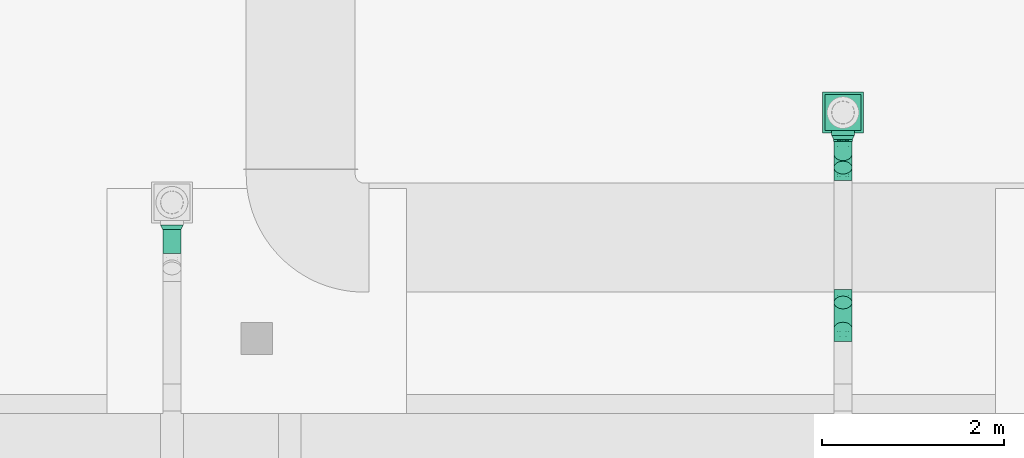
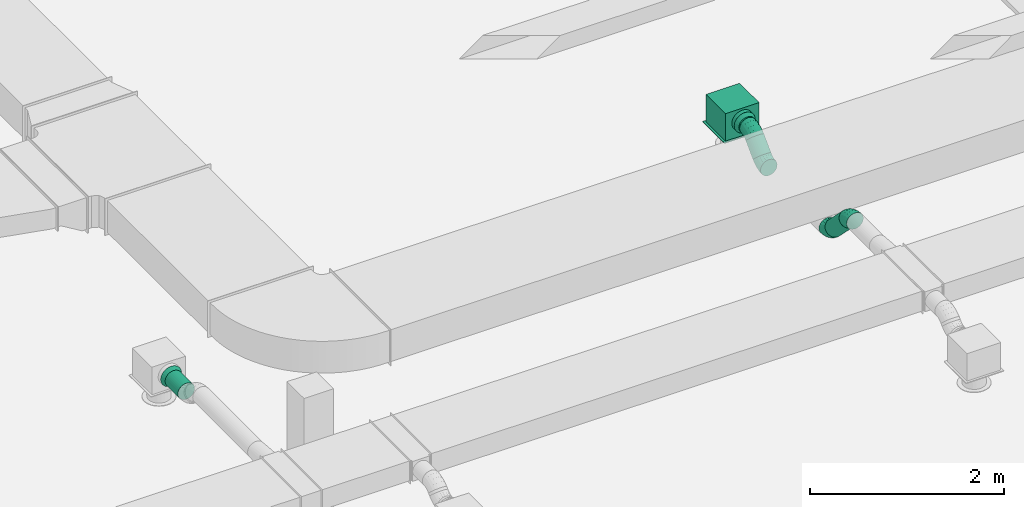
# One storey, part 265 of 302: 6 flow fittings, 4 flow segments, 1 flow terminal.
"""IFC2X3 building model written with IfcOpenShell, lengths in metres."""

from ifc_helpers import new_model, entity, si_unit, converted_unit, derived_unit, direction, frame, frame_2d, origin, origin_2d_with_axis, place, context, subcontext, project, spatial, rectangle, circle, extrude, faceted_brep, source, transform, mapped, material, material_list, type_object, type_shapes, element, save


model = new_model("IFC2X3")

# Units and contexts
model_context = context("Model", 3, precision=1e-05, world=origin(), true_north=direction((6.12303176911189e-17, 1.0)))
body_context = subcontext(model_context, "Body", "Model", "MODEL_VIEW")
ifc_project = project(units=[si_unit("LENGTHUNIT", "METRE"), si_unit("AREAUNIT", "SQUARE_METRE"), si_unit("VOLUMEUNIT", "CUBIC_METRE"), converted_unit("PLANEANGLEUNIT", "DEGREE", entity("IfcRatioMeasure", 0.0174532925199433), si_unit("PLANEANGLEUNIT", "RADIAN"), dimensions=[0, 0, 0, 0, 0, 0, 0]), si_unit("MASSUNIT", "GRAM", prefix="KILO"), derived_unit("MASSDENSITYUNIT", [(si_unit("MASSUNIT", "GRAM", prefix="KILO"), 1), (si_unit("LENGTHUNIT", "METRE"), -3)]), derived_unit("MOMENTOFINERTIAUNIT", [(si_unit("LENGTHUNIT", "METRE"), 4)]), si_unit("TIMEUNIT", "SECOND"), si_unit("FREQUENCYUNIT", "HERTZ"), si_unit("THERMODYNAMICTEMPERATUREUNIT", "DEGREE_CELSIUS"), derived_unit("THERMALTRANSMITTANCEUNIT", [(si_unit("MASSUNIT", "GRAM", prefix="KILO"), 1), (si_unit("THERMODYNAMICTEMPERATUREUNIT", "KELVIN"), -1), (si_unit("TIMEUNIT", "SECOND"), -3)]), derived_unit("VOLUMETRICFLOWRATEUNIT", [(si_unit("LENGTHUNIT", "METRE"), 3), (si_unit("TIMEUNIT", "SECOND"), -1)]), si_unit("ELECTRICCURRENTUNIT", "AMPERE"), si_unit("ELECTRICVOLTAGEUNIT", "VOLT"), si_unit("POWERUNIT", "WATT"), si_unit("FORCEUNIT", "NEWTON", prefix="KILO"), si_unit("ILLUMINANCEUNIT", "LUX"), si_unit("LUMINOUSFLUXUNIT", "LUMEN"), si_unit("LUMINOUSINTENSITYUNIT", "CANDELA"), derived_unit("USERDEFINED", [(si_unit("MASSUNIT", "GRAM", prefix="KILO"), -1), (si_unit("LENGTHUNIT", "METRE"), -2), (si_unit("TIMEUNIT", "SECOND"), 3), (si_unit("LUMINOUSFLUXUNIT", "LUMEN"), 1)]), derived_unit("LINEARVELOCITYUNIT", [(si_unit("LENGTHUNIT", "METRE"), 1), (si_unit("TIMEUNIT", "SECOND"), -1)]), si_unit("PRESSUREUNIT", "PASCAL"), derived_unit("USERDEFINED", [(si_unit("LENGTHUNIT", "METRE"), -2), (si_unit("MASSUNIT", "GRAM", prefix="KILO"), 1), (si_unit("TIMEUNIT", "SECOND"), -2)]), derived_unit("LINEARFORCEUNIT", [(si_unit("MASSUNIT", "GRAM", prefix="KILO"), 1), (si_unit("LENGTHUNIT", "METRE"), 1), (si_unit("TIMEUNIT", "SECOND"), -2), (si_unit("LENGTHUNIT", "METRE"), -1)]), derived_unit("PLANARFORCEUNIT", [(si_unit("MASSUNIT", "GRAM", prefix="KILO"), 1), (si_unit("LENGTHUNIT", "METRE"), 1), (si_unit("TIMEUNIT", "SECOND"), -2), (si_unit("LENGTHUNIT", "METRE"), -2)])], contexts=[model_context])

# Site, building, storey
site_placement = place(None, origin())
site = spatial("IfcSite", under=ifc_project, at=site_placement, Name="Default", CompositionType="ELEMENT")
building_placement = place(site_placement, origin())
building = spatial("IfcBuilding", under=site, at=building_placement, CompositionType="ELEMENT")
storey_placement = place(building_placement, frame((0.0, 0.0, -1.3)))
storey = spatial("IfcBuildingStorey", under=building, at=storey_placement, Name="00_EG", CompositionType="ELEMENT", Elevation=-1.3)

# Flow segments
duct_segment_type = type_object("IfcDuctSegmentType", Name="Rund:STR_Segment_RND_GS_EA", PredefinedType="NOTDEFINED")
flow_segment_1_placement = place(storey_placement, origin())
element("IfcFlowSegment", 1, at=flow_segment_1_placement, inside=storey, type_object=duct_segment_type, Name="Rund:STR_Segment_RND_GS_EA", ObjectType="Rund:STR_Segment_RND_GS_EA", context=body_context, shape_type="SweptSolid", body=[
    extrude(circle(Radius=0.1, at=origin_2d_with_axis()), frame((-240.478749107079, 25.6179660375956, 4.985), z_axis=(0.0, 1.0, 0.0), x_axis=(-1.0, 0.0, 0.0)), (0.0, 0.0, 1.0), 0.017157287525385),
])
flow_segment_2_placement = place(storey_placement, origin())
element("IfcFlowSegment", 2, at=flow_segment_2_placement, inside=storey, type_object=duct_segment_type, Name="Rund:STR_Segment_RND_GS_EA", ObjectType="Rund:STR_Segment_RND_GS_EA", context=body_context, shape_type="SweptSolid", body=[
    extrude(circle(Radius=0.1, at=frame_2d((3.46517481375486e-14, 7.65702690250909e-15), x_axis=(1.0, 0.0))), frame((-240.478749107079, 25.3287019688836, 4.77857864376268), z_axis=(0.0, 0.707106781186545, 0.70710678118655), x_axis=(-1.0, 0.0, 0.0)), (0.0, 0.0, 1.0), 0.209081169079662),
])
flow_segment_3_placement = place(storey_placement, origin())
element("IfcFlowSegment", 3, at=flow_segment_3_placement, inside=storey, type_object=duct_segment_type, Name="Rund:STR_Segment_RND_GS_EA", ObjectType="Rund:STR_Segment_RND_GS_EA", context=body_context, shape_type="SweptSolid", body=[
    extrude(circle(Radius=0.1, at=origin_2d_with_axis()), frame((-240.478749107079, 23.8432369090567, 4.77857864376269), z_axis=(0.0, -0.707106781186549, 0.707106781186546), x_axis=(-1.0, 0.0, 0.0)), (0.0, 0.0, 1.0), 0.407071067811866),
])
flow_segment_4_placement = place(storey_placement, origin())
element("IfcFlowSegment", 4, at=flow_segment_4_placement, inside=storey, type_object=duct_segment_type, Name="Rund:STR_Segment_RND_GS_EA", ObjectType="Rund:STR_Segment_RND_GS_EA", context=body_context, shape_type="SweptSolid", body=[
    extrude(circle(Radius=0.1, at=origin_2d_with_axis()), frame((-247.869417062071, 24.3826301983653, 4.985), z_axis=(0.0, 1.0, 0.0), x_axis=(-1.0, 0.0, 0.0)), (0.0, 0.0, 1.0), 0.262914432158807),
])

# Flow terminal
ifc_material = material(Name="<Unnamed>")
ifc_material_list = material_list([ifc_material, ifc_material, ifc_material])
air_terminal_type = type_object("IfcAirTerminalType", Name="Drallauslass Zuluft seitlich:600 quadratisch", PredefinedType="NOTDEFINED", material=ifc_material_list)
shared_shape_1 = source(origin(), body_context, "Body", "SweptSolid", [
    extrude(rectangle(XDim=0.449999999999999, YDim=0.450000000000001, at=origin_2d_with_axis()), frame((0.0, 0.0, 2.692), z_axis=(0.0, 0.0, 1.0), x_axis=(-1.0, 0.0, 0.0)), (0.0, 0.0, 1.0), 0.00800000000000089),
    extrude(circle(Radius=0.125, at=frame_2d((1.22275294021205e-18, 0.0), x_axis=(1.0, 0.0))), frame((-0.25, 0.0, 2.89500000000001), z_axis=(1.0, 0.0, 0.0), x_axis=(0.0, 1.0, 0.0)), (0.0, 0.0, 1.0), 0.0499999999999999),
    extrude(rectangle(XDim=0.399999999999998, YDim=0.4, at=origin_2d_with_axis()), frame((0.0, 0.0, 2.7), z_axis=(0.0, 0.0, 1.0), x_axis=(-1.0, 0.0, 0.0)), (0.0, 0.0, 1.0), 0.345000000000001),
])
type_shapes(air_terminal_type, [shared_shape_1])
flow_terminal_placement = place(storey_placement, frame((-240.478749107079, 25.935123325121, 2.08999999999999), z_axis=(0.0, 0.0, 1.0), x_axis=(0.0, 1.0, 0.0)))
element("IfcFlowTerminal", 5, at=flow_terminal_placement, inside=storey, type_object=air_terminal_type, material=ifc_material, Name="Drallauslass Zuluft seitlich:600 quadratisch", ObjectType="Drallauslass Zuluft seitlich:600 quadratisch", context=body_context, shape_type="MappedRepresentation", body=[
    mapped(shared_shape_1, transform((0.0, 0.0, 0.0), scale=1.0)),
])

# Flow fittings
duct_fitting_type_1 = type_object("IfcDuctFittingType", Name="STR_RND_Transition:STR_Transition_RND_GS_EA", PredefinedType="NOTDEFINED", material=ifc_material)
shared_shape_2 = source(origin(), body_context, "Body", "Brep", [
    faceted_brep([(0.0500000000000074, -0.0587785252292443, -0.0809016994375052), (0.0500000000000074, -0.0309016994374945, -0.0951056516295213), (0.0500000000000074, 0.0, -0.10000000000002), (0.0500000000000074, 0.0309016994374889, -0.0951056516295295), (0.0500000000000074, 0.058778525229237, -0.0809016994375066), (0.0500000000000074, 0.0809016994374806, -0.0587785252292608), (0.0500000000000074, 0.0951056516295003, -0.0309016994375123), (0.0500000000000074, 0.0999999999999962, 0.0), (0.0500000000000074, 0.0951056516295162, 0.0309016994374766), (0.0500000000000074, 0.0809016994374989, 0.0587785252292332), (0.0500000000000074, 0.0587785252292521, 0.0809016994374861), (0.0500000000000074, 0.0309016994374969, 0.0951056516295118), (0.0500000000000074, 0.0, 0.0999999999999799), (0.0500000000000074, -0.0309016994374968, 0.0951056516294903), (0.0500000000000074, -0.058778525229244, 0.0809016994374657), (0.0500000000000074, -0.0809016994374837, 0.0587785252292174), (0.0500000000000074, -0.0951056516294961, 0.0309016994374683), (0.0500000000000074, -0.100000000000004, 0.0), (0.0500000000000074, -0.0951056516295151, -0.030901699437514), (0.0500000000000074, -0.0809016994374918, -0.0587785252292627), (0.0, -0.124999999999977, 0.0), (0.0, -0.118882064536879, 0.038627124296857), (0.0, -0.101127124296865, 0.073473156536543), (0.0, -0.0734731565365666, 0.101127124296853), (0.0, -0.0386271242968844, 0.118882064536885), (0.0, 0.0, 0.125000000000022), (0.0, 0.0386271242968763, 0.11888206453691), (0.0, 0.0734731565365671, 0.101127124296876), (0.0, 0.101127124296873, 0.0734731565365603), (0.0, 0.118882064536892, 0.038627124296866), (0.0, 0.124999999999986, 0.0), (0.0, 0.118882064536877, -0.0386271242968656), (0.0, 0.101127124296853, -0.0734731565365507), (0.0, 0.0734731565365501, -0.101127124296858), (0.0, 0.0386271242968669, -0.118882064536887), (0.0, 0.0, -0.124999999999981), (0.0, -0.0386271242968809, -0.118882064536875), (0.0, -0.0734731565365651, -0.101127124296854), (0.0, -0.101127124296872, -0.0734731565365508), (0.0, -0.118882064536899, -0.0386271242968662)], [[[0, 1, 2, 3, 4, 5, 6, 7, 8, 9, 10, 11, 12, 13, 14, 15, 16, 17, 18, 19]], [[20, 21, 22, 23, 24, 25, 26, 27, 28, 29, 30, 31, 32, 33, 34, 35, 36, 37, 38, 39]], [[26, 25, 12, 11]], [[27, 26, 11, 10]], [[10, 9, 28, 27]], [[8, 7, 30, 29]], [[9, 8, 29, 28]], [[21, 20, 17, 16]], [[22, 21, 16, 15]], [[15, 14, 23, 22]], [[13, 12, 25, 24]], [[14, 13, 24, 23]], [[36, 35, 2, 1]], [[37, 36, 1, 0]], [[0, 19, 38, 37]], [[18, 17, 20, 39]], [[19, 18, 39, 38]], [[31, 30, 7, 6]], [[32, 31, 6, 5]], [[5, 4, 33, 32]], [[3, 2, 35, 34]], [[4, 3, 34, 33]]]),
])
type_shapes(duct_fitting_type_1, [shared_shape_2])
for number, where, z_axis, x_axis in (
    (6, (-240.478749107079, 25.685123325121, 4.985), (0.0, 0.0, 1.0), (0.0, -1.0, 0.0)),
    (7, (-247.869417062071, 24.6955446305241, 4.985), (0.0, 0.0, 1.0), (0.0, -1.0, 0.0)),
):
    element("IfcFlowFitting", number, at=place(storey_placement, frame(where, z_axis=z_axis, x_axis=x_axis)), inside=storey, type_object=duct_fitting_type_1, material=ifc_material, Name="STR_RND_Transition:STR_Transition_RND_GS_EA", ObjectType="STR_RND_Transition:STR_Transition_RND_GS_EA", context=body_context, shape_type="MappedRepresentation", body=[
        mapped(shared_shape_2, transform((0.0, 0.0, 0.0), scale=1.0)),
    ])
duct_fitting_type_2 = type_object("IfcDuctFittingType", Name="STR_RND_Elbow:STR_Elbow_RND_GS_EA", PredefinedType="NOTDEFINED", material=ifc_material)
shared_shape_3 = source(origin(), body_context, "Body", "Brep", [
    faceted_brep([(-0.043824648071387, 0.00384294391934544, 0.0999999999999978), (-0.0498532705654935, 0.034150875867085, 0.0951056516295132), (-0.0828427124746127, 0.0309016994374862, 0.0951056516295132), (-0.0828427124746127, 0.0, 0.0999999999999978), (-0.055291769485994, 0.0614920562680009, 0.0809016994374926), (-0.0828427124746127, 0.0587785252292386, 0.0809016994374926), (-0.0596077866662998, 0.0831901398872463, 0.0587785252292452), (-0.0828427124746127, 0.0809016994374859, 0.0587785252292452), (-0.0623788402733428, 0.0971211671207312, 0.0309016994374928), (-0.0828427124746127, 0.0951056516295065, 0.0309016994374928), (-0.0633336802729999, 0.101921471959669, 0.0), (-0.0828427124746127, 0.0999999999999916, 0.0), (-0.0623788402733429, 0.0971211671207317, -0.030901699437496), (-0.0828427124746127, 0.095105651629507, -0.030901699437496), (-0.0596077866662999, 0.0831901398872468, -0.0587785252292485), (-0.0828427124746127, 0.0809016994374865, -0.0587785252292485), (-0.0552917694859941, 0.0614920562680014, -0.0809016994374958), (-0.0828427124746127, 0.0587785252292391, -0.0809016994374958), (-0.0498532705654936, 0.0341508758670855, -0.0951056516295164), (-0.0828427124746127, 0.0309016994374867, -0.0951056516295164), (-0.0438246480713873, 0.00384294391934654, -0.100000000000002), (-0.0828427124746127, 0.0, -0.100000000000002), (-0.0377960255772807, -0.0264649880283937, -0.0951056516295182), (-0.0828427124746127, -0.0309016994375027, -0.0951056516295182), (-0.03235752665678, -0.0538061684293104, -0.0809016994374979), (-0.0828427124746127, -0.0587785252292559, -0.0809016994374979), (-0.028041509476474, -0.0755042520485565, -0.0587785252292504), (-0.0828427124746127, -0.080901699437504, -0.0587785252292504), (-0.0252704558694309, -0.089435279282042, -0.0309016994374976), (-0.0828427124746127, -0.0951056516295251, -0.0309016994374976), (-0.0243156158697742, -0.0942355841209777, 0.0), (-0.0828427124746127, -0.100000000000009, 0.0), (-0.0252704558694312, -0.0894352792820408, 0.0309016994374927), (-0.0828427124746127, -0.0951056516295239, 0.0309016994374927), (-0.0280415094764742, -0.0755042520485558, 0.0587785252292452), (-0.0828427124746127, -0.0809016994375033, 0.0587785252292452), (-0.0323575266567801, -0.0538061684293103, 0.0809016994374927), (-0.0828427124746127, -0.0587785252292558, 0.0809016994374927), (-0.0377960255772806, -0.0264649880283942, 0.0951056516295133), (-0.0828427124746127, -0.0309016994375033, 0.0951056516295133), (-0.00630602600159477, 0.0152240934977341, 0.0999999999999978), (-0.0181315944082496, 0.043773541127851, 0.0951056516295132), (-0.028799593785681, 0.0695283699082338, 0.0809016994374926), (-0.037265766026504, 0.0899675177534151, 0.0587785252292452), (-0.042701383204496, 0.103090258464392, 0.0309016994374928), (-0.0445743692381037, 0.107612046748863, 0.0), (-0.0427013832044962, 0.103090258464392, -0.030901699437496), (-0.0372657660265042, 0.0899675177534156, -0.0587785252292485), (-0.0287995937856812, 0.0695283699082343, -0.0809016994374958), (-0.0181315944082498, 0.0437735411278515, -0.0951056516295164), (-0.0063060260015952, 0.0152240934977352, -0.100000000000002), (0.00551954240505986, -0.0133253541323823, -0.0951056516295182), (0.0161875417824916, -0.0390801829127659, -0.0809016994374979), (0.0246537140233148, -0.0595193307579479, -0.0587785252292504), (0.0300893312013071, -0.072642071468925, -0.0309016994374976), (0.0319623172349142, -0.0771638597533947, 0.0), (0.0300893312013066, -0.0726420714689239, 0.0309016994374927), (0.0246537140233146, -0.0595193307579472, 0.0587785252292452), (0.0161875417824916, -0.0390801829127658, 0.0809016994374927), (0.00551954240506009, -0.0133253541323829, 0.0951056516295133), (0.0282713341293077, 0.0337060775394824, 0.0999999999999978), (0.0111032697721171, 0.0593999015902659, 0.0951056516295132), (-0.00438426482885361, 0.0825786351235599, 0.0809016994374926), (-0.0166752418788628, 0.100973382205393, 0.0587785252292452), (-0.024566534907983, 0.112783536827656, 0.0309016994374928), (-0.0272856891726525, 0.116853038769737, 0.0), (-0.0245665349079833, 0.112783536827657, -0.030901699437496), (-0.0166752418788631, 0.100973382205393, -0.0587785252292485), (-0.00438426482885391, 0.0825786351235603, -0.0809016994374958), (0.0111032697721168, 0.0593999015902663, -0.0951056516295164), (0.0282713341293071, 0.0337060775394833, -0.100000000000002), (0.0454393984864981, 0.00801225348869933, -0.0951056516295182), (0.0609269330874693, -0.0151664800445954, -0.0809016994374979), (0.0732179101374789, -0.0335612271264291, -0.0587785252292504), (0.0811092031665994, -0.0453713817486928, -0.0309016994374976), (0.0838283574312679, -0.0494408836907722, 0.0), (0.0811092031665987, -0.0453713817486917, 0.0309016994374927), (0.0732179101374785, -0.0335612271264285, 0.0587785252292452), (0.0609269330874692, -0.0151664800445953, 0.0809016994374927), (0.0454393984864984, 0.00801225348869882, 0.0951056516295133), (0.0585786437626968, 0.0585786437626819, 0.0999999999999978), (0.0367278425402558, 0.0804294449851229, 0.0951056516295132), (0.0170159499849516, 0.100141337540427, 0.0809016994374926), (0.00137250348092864, 0.11578478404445, 0.0587785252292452), (-0.00867120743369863, 0.125828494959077, 0.0309016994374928), (-0.012132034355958, 0.129289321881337, 0.0), (-0.00867120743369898, 0.125828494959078, -0.030901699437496), (0.00137250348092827, 0.115784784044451, -0.0587785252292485), (0.0170159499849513, 0.100141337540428, -0.0809016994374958), (0.0367278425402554, 0.0804294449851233, -0.0951056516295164), (0.058578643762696, 0.0585786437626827, -0.100000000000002), (0.0804294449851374, 0.0367278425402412, -0.0951056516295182), (0.100141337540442, 0.0170159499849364, -0.0809016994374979), (0.115784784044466, 0.00137250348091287, -0.0587785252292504), (0.125828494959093, -0.0086712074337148, -0.0309016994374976), (0.129289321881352, -0.012132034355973, 0.0), (0.125828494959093, -0.00867120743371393, 0.0309016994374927), (0.115784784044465, 0.00137250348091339, 0.0587785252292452), (0.100141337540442, 0.0170159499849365, 0.0809016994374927), (0.0804294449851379, 0.0367278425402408, 0.0951056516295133)], [[[0, 1, 2, 3]], [[1, 4, 5, 2]], [[4, 6, 7, 5]], [[6, 8, 9, 7]], [[8, 10, 11, 9]], [[10, 12, 13, 11]], [[12, 14, 15, 13]], [[14, 16, 17, 15]], [[16, 18, 19, 17]], [[18, 20, 21, 19]], [[20, 22, 23, 21]], [[22, 24, 25, 23]], [[24, 26, 27, 25]], [[26, 28, 29, 27]], [[28, 30, 31, 29]], [[30, 32, 33, 31]], [[32, 34, 35, 33]], [[34, 36, 37, 35]], [[36, 38, 39, 37]], [[38, 0, 3, 39]], [[40, 41, 1, 0]], [[41, 42, 4, 1]], [[42, 43, 6, 4]], [[43, 44, 8, 6]], [[44, 45, 10, 8]], [[45, 46, 12, 10]], [[46, 47, 14, 12]], [[47, 48, 16, 14]], [[48, 49, 18, 16]], [[49, 50, 20, 18]], [[50, 51, 22, 20]], [[51, 52, 24, 22]], [[52, 53, 26, 24]], [[53, 54, 28, 26]], [[54, 55, 30, 28]], [[55, 56, 32, 30]], [[56, 57, 34, 32]], [[57, 58, 36, 34]], [[58, 59, 38, 36]], [[59, 40, 0, 38]], [[60, 61, 41, 40]], [[61, 62, 42, 41]], [[62, 63, 43, 42]], [[63, 64, 44, 43]], [[64, 65, 45, 44]], [[65, 66, 46, 45]], [[66, 67, 47, 46]], [[67, 68, 48, 47]], [[68, 69, 49, 48]], [[69, 70, 50, 49]], [[70, 71, 51, 50]], [[71, 72, 52, 51]], [[72, 73, 53, 52]], [[73, 74, 54, 53]], [[74, 75, 55, 54]], [[75, 76, 56, 55]], [[76, 77, 57, 56]], [[77, 78, 58, 57]], [[78, 79, 59, 58]], [[79, 60, 40, 59]], [[80, 81, 61, 60]], [[81, 82, 62, 61]], [[82, 83, 63, 62]], [[83, 84, 64, 63]], [[84, 85, 65, 64]], [[85, 86, 66, 65]], [[86, 87, 67, 66]], [[87, 88, 68, 67]], [[88, 89, 69, 68]], [[89, 90, 70, 69]], [[90, 91, 71, 70]], [[91, 92, 72, 71]], [[92, 93, 73, 72]], [[93, 94, 74, 73]], [[94, 95, 75, 74]], [[95, 96, 76, 75]], [[96, 97, 77, 76]], [[97, 98, 78, 77]], [[98, 99, 79, 78]], [[99, 80, 60, 79]], [[3, 2, 5, 7, 9, 11, 13, 15, 17, 19, 21, 23, 25, 27, 29, 31, 33, 35, 37, 39]], [[99, 98, 97, 96, 95, 94, 93, 92, 91, 90, 89, 88, 87, 86, 85, 84, 83, 82, 81, 80]]]),
])
type_shapes(duct_fitting_type_2, [shared_shape_3])
for number, where, z_axis, x_axis in (
    (8, (-240.478749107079, 25.535123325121, 4.985), (1.0, 0.0, 0.0), (0.0, -1.0, 0.0)),
    (9, (-240.478749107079, 25.2701233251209, 4.72), (-1.0, 0.0, 0.0), (0.0, -0.707106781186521, -0.707106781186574)),
    (10, (-240.478749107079, 23.9018155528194, 4.72000000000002), (-1.0, 0.0, 0.0), (0.0, -1.0, 0.0)),
    (11, (-240.478749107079, 23.4968155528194, 5.12500000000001), (-1.0, 0.0, 0.0), (0.0, 1.0, 0.0)),
):
    element("IfcFlowFitting", number, at=place(storey_placement, frame(where, z_axis=z_axis, x_axis=x_axis)), inside=storey, type_object=duct_fitting_type_2, material=ifc_material, Name="STR_RND_Elbow:STR_Elbow_RND_GS_EA", ObjectType="STR_RND_Elbow:STR_Elbow_RND_GS_EA", context=body_context, shape_type="MappedRepresentation", body=[
        mapped(shared_shape_3, transform((0.0, 0.0, 0.0), scale=1.0)),
    ])

save(model, "model.ifc")
